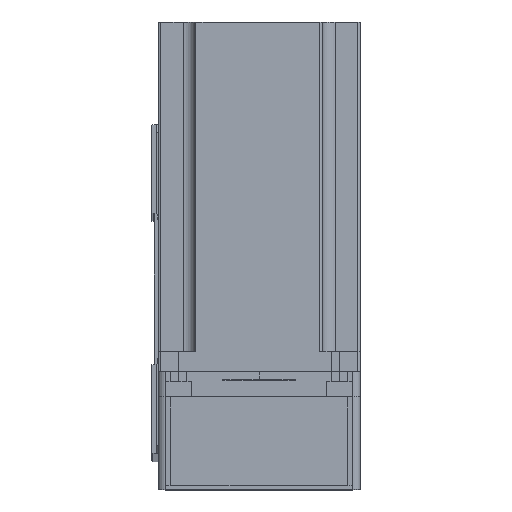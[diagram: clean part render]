
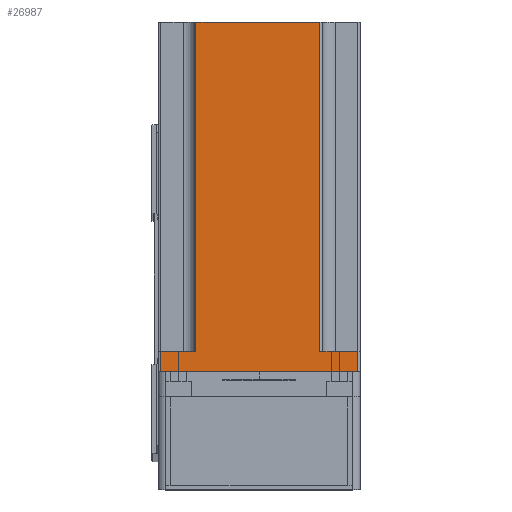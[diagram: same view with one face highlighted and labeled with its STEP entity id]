
A CAD part, top view. The second image highlights one B-rep face of the part: STEP entity #26987.
In plain terms, the highlighted planar face has unit normal (0, 0, 1) as drawn and (-1, 0, 0) by its records, which use the part's own axes.
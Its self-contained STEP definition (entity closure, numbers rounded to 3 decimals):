
#869 = VECTOR ( 'NONE', #2124, 1000. ) ;
#2124 = DIRECTION ( 'NONE',  ( 0., 0., 1. ) ) ;
#3864 = ORIENTED_EDGE ( 'NONE', *, *, #19180, .T. ) ;
#4379 = LINE ( 'NONE', #21270, #50519 ) ;
#6655 = CARTESIAN_POINT ( 'NONE',  ( -40., 25., 138.3 ) ) ;
#13964 = VECTOR ( 'NONE', #35160, 1000. ) ;
#15249 = AXIS2_PLACEMENT_3D ( 'NONE', #31680, #31629, #31562 ) ;
#16359 = CARTESIAN_POINT ( 'NONE',  ( -40., 39., 138.3 ) ) ;
#16913 = DIRECTION ( 'NONE',  ( 0., -1., 0. ) ) ;
#17513 = CARTESIAN_POINT ( 'NONE',  ( -40., -40., 138.3 ) ) ;
#17609 = CARTESIAN_POINT ( 'NONE',  ( -40., -24., 138.3 ) ) ;
#17661 = ORIENTED_EDGE ( 'NONE', *, *, #35931, .T. ) ;
#18318 = EDGE_CURVE ( 'NONE', #29968, #44641, #21633, .T. ) ;
#18561 = VERTEX_POINT ( 'NONE', #54416 ) ;
#19180 = EDGE_CURVE ( 'NONE', #51479, #44641, #24404, .T. ) ;
#20612 = ORIENTED_EDGE ( 'NONE', *, *, #43858, .F. ) ;
#21270 = CARTESIAN_POINT ( 'NONE',  ( -40., -40., 8. ) ) ;
#21633 = LINE ( 'NONE', #17513, #44614 ) ;
#21973 = ORIENTED_EDGE ( 'NONE', *, *, #51669, .T. ) ;
#24404 = LINE ( 'NONE', #37091, #44450 ) ;
#24538 = CARTESIAN_POINT ( 'NONE',  ( -40., -24., 8. ) ) ;
#25991 = DIRECTION ( 'NONE',  ( 0., -1., 0. ) ) ;
#26352 = EDGE_LOOP ( 'NONE', ( #20612, #3864, #27187, #33611, #17661, #26383, #21973, #40679 ) ) ;
#26383 = ORIENTED_EDGE ( 'NONE', *, *, #51591, .T. ) ;
#26968 = CARTESIAN_POINT ( 'NONE',  ( -40., 39., 8. ) ) ;
#26987 = ADVANCED_FACE ( 'NONE', ( #50100 ), #34336, .F. ) ;
#27187 = ORIENTED_EDGE ( 'NONE', *, *, #18318, .F. ) ;
#27945 = CARTESIAN_POINT ( 'NONE',  ( -40., 25., 8. ) ) ;
#28382 = DIRECTION ( 'NONE',  ( 0., 0., 1. ) ) ;
#29038 = LINE ( 'NONE', #27945, #58258 ) ;
#29705 = VERTEX_POINT ( 'NONE', #30687 ) ;
#29968 = VERTEX_POINT ( 'NONE', #6655 ) ;
#30687 = CARTESIAN_POINT ( 'NONE',  ( -40., -39., 0. ) ) ;
#31203 = CARTESIAN_POINT ( 'NONE',  ( -40., 25., 8. ) ) ;
#31562 = DIRECTION ( 'NONE',  ( 0., 0., -1. ) ) ;
#31629 = DIRECTION ( 'NONE',  ( 1., 0., 0. ) ) ;
#31680 = CARTESIAN_POINT ( 'NONE',  ( -40., -40., 138.3 ) ) ;
#33611 = ORIENTED_EDGE ( 'NONE', *, *, #36363, .F. ) ;
#34336 = PLANE ( 'NONE',  #15249 ) ;
#34556 = CARTESIAN_POINT ( 'NONE',  ( -40., -39., 138.3 ) ) ;
#35160 = DIRECTION ( 'NONE',  ( 0., -1., 0. ) ) ;
#35931 = EDGE_CURVE ( 'NONE', #55184, #49952, #39137, .T. ) ;
#36363 = EDGE_CURVE ( 'NONE', #55184, #29968, #29038, .T. ) ;
#37010 = DIRECTION ( 'NONE',  ( 0., 0., 1. ) ) ;
#37091 = CARTESIAN_POINT ( 'NONE',  ( -40., -24., 138.3 ) ) ;
#39137 = LINE ( 'NONE', #58818, #51227 ) ;
#40679 = ORIENTED_EDGE ( 'NONE', *, *, #55119, .T. ) ;
#42792 = LINE ( 'NONE', #16359, #52018 ) ;
#43858 = EDGE_CURVE ( 'NONE', #51479, #58212, #4379, .T. ) ;
#44450 = VECTOR ( 'NONE', #37010, 1000. ) ;
#44614 = VECTOR ( 'NONE', #16913, 1000. ) ;
#44641 = VERTEX_POINT ( 'NONE', #17609 ) ;
#48526 = LINE ( 'NONE', #34556, #869 ) ;
#49180 = LINE ( 'NONE', #53493, #13964 ) ;
#49952 = VERTEX_POINT ( 'NONE', #26968 ) ;
#50100 = FACE_OUTER_BOUND ( 'NONE', #26352, .T. ) ;
#50519 = VECTOR ( 'NONE', #25991, 1000. ) ;
#51227 = VECTOR ( 'NONE', #58830, 1000. ) ;
#51479 = VERTEX_POINT ( 'NONE', #24538 ) ;
#51591 = EDGE_CURVE ( 'NONE', #49952, #18561, #42792, .T. ) ;
#51669 = EDGE_CURVE ( 'NONE', #18561, #29705, #49180, .T. ) ;
#52018 = VECTOR ( 'NONE', #57431, 1000. ) ;
#53493 = CARTESIAN_POINT ( 'NONE',  ( -40., -40., 0. ) ) ;
#54115 = CARTESIAN_POINT ( 'NONE',  ( -40., -39., 8. ) ) ;
#54416 = CARTESIAN_POINT ( 'NONE',  ( -40., 39., 0. ) ) ;
#55119 = EDGE_CURVE ( 'NONE', #29705, #58212, #48526, .T. ) ;
#55184 = VERTEX_POINT ( 'NONE', #31203 ) ;
#57431 = DIRECTION ( 'NONE',  ( 0., 0., -1. ) ) ;
#58212 = VERTEX_POINT ( 'NONE', #54115 ) ;
#58258 = VECTOR ( 'NONE', #28382, 1000. ) ;
#58818 = CARTESIAN_POINT ( 'NONE',  ( -40., 40., 8. ) ) ;
#58830 = DIRECTION ( 'NONE',  ( 0., 1., 0. ) ) ;
